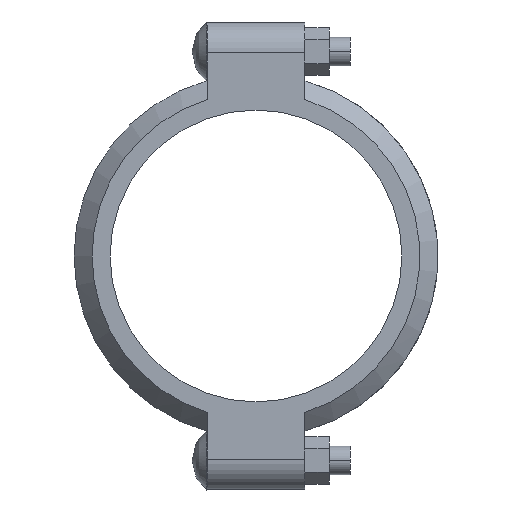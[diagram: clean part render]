
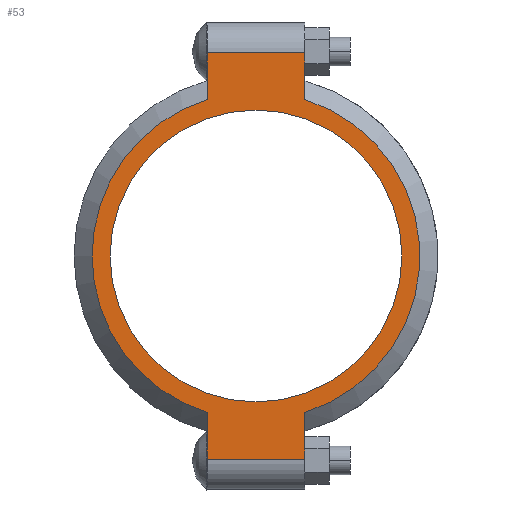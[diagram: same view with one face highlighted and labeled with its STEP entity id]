
A CAD part, front view. The second image highlights one B-rep face of the part: STEP entity #53.
In plain terms, the highlighted planar face has unit normal (0, -1, 0).
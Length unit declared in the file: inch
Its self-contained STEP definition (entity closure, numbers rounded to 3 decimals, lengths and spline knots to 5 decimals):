
#3 = ORIENTED_EDGE ( 'NONE', *, *, #463, .T. ) ;
#4 = ORIENTED_EDGE ( 'NONE', *, *, #458, .T. ) ;
#6 = ORIENTED_EDGE ( 'NONE', *, *, #1808, .T. ) ;
#18 = ORIENTED_EDGE ( 'NONE', *, *, #462, .T. ) ;
#53 = ADVANCED_FACE ( 'NONE', ( #667, #670 ), #1363, .F. ) ;
#89 = CARTESIAN_POINT ( 'NONE',  ( 1.105, -0.9725, -3.5534 ) ) ;
#107 = CARTESIAN_POINT ( 'NONE',  ( -1.105, -0.9725, 3.5534 ) ) ;
#154 = CARTESIAN_POINT ( 'NONE',  ( -1.105, -0.9725, 4.61106 ) ) ;
#155 = CARTESIAN_POINT ( 'NONE',  ( -1.105, -0.9725, 3.97943 ) ) ;
#156 = DIRECTION ( 'NONE',  ( 0., 0., -1. ) ) ;
#167 = DIRECTION ( 'NONE',  ( 0., 0., -1. ) ) ;
#180 = DIRECTION ( 'NONE',  ( -1., 0., 0. ) ) ;
#181 = CARTESIAN_POINT ( 'NONE',  ( -1.105, -0.9725, -5.30106 ) ) ;
#187 = DIRECTION ( 'NONE',  ( 1., 0., 0. ) ) ;
#188 = CARTESIAN_POINT ( 'NONE',  ( 1.105, -0.9725, -4.61106 ) ) ;
#190 = CARTESIAN_POINT ( 'NONE',  ( -1.105, -0.9725, 4.61106 ) ) ;
#191 = CARTESIAN_POINT ( 'NONE',  ( 0., -0.9725, 0. ) ) ;
#193 = DIRECTION ( 'NONE',  ( 0., -1., 0. ) ) ;
#194 = DIRECTION ( 'NONE',  ( 0., 0., -1. ) ) ;
#199 = CARTESIAN_POINT ( 'NONE',  ( 0., -0.9725, 0. ) ) ;
#200 = DIRECTION ( 'NONE',  ( 0., -1., 0. ) ) ;
#202 = DIRECTION ( 'NONE',  ( -1., 0., 0. ) ) ;
#203 = CARTESIAN_POINT ( 'NONE',  ( 0., -0.9725, -3.3125 ) ) ;
#206 = CARTESIAN_POINT ( 'NONE',  ( 0., -0.9725, 0. ) ) ;
#207 = DIRECTION ( 'NONE',  ( 0., -1., 0. ) ) ;
#208 = DIRECTION ( 'NONE',  ( -1., 0., 0. ) ) ;
#227 = CARTESIAN_POINT ( 'NONE',  ( -3.72125, -0.9725, 0. ) ) ;
#264 = CARTESIAN_POINT ( 'NONE',  ( -1.105, -0.9725, -3.5534 ) ) ;
#270 = CARTESIAN_POINT ( 'NONE',  ( 0., -0.9725, 3.3125 ) ) ;
#281 = CARTESIAN_POINT ( 'NONE',  ( 1.105, -0.9725, 4.61106 ) ) ;
#301 = CARTESIAN_POINT ( 'NONE',  ( -1.105, -0.9725, -4.61106 ) ) ;
#311 = CARTESIAN_POINT ( 'NONE',  ( 1.105, -0.9725, -4.61106 ) ) ;
#394 = DIRECTION ( 'NONE',  ( 0., 0., -1. ) ) ;
#395 = DIRECTION ( 'NONE',  ( 0., -1., 0. ) ) ;
#397 = CARTESIAN_POINT ( 'NONE',  ( 0., -0.9725, 0. ) ) ;
#425 = DIRECTION ( 'NONE',  ( -1., 0., 0. ) ) ;
#427 = DIRECTION ( 'NONE',  ( 0., -1., 0. ) ) ;
#430 = CARTESIAN_POINT ( 'NONE',  ( 0., -0.9725, 0. ) ) ;
#454 = EDGE_CURVE ( 'NONE', #1620, #520, #737, .T. ) ;
#458 = EDGE_CURVE ( 'NONE', #1778, #1784, #741, .T. ) ;
#459 = EDGE_CURVE ( 'NONE', #1756, #1779, #740, .T. ) ;
#460 = EDGE_CURVE ( 'NONE', #1791, #1620, #742, .T. ) ;
#461 = EDGE_CURVE ( 'NONE', #520, #1764, #745, .T. ) ;
#462 = EDGE_CURVE ( 'NONE', #1784, #1790, #747, .T. ) ;
#463 = EDGE_CURVE ( 'NONE', #511, #1799, #748, .T. ) ;
#511 = VERTEX_POINT ( 'NONE', #89 ) ;
#520 = VERTEX_POINT ( 'NONE', #107 ) ;
#532 = EDGE_LOOP ( 'NONE', ( #1222, #1221 ) ) ;
#537 = EDGE_LOOP ( 'NONE', ( #1220, #1219, #1218, #1217, #1216, #4, #18, #6, #3 ) ) ;
#667 = FACE_BOUND ( 'NONE', #532, .T. ) ;
#670 = FACE_OUTER_BOUND ( 'NONE', #537, .T. ) ;
#737 = LINE ( 'NONE', #155, #739 ) ;
#739 = VECTOR ( 'NONE', #156, 39.37008 ) ;
#740 = CIRCLE ( 'NONE', #991, 3.3125 ) ;
#741 = LINE ( 'NONE', #181, #743 ) ;
#742 = LINE ( 'NONE', #190, #746 ) ;
#743 = VECTOR ( 'NONE', #167, 39.37008 ) ;
#745 = CIRCLE ( 'NONE', #993, 3.72125 ) ;
#746 = VECTOR ( 'NONE', #180, 39.37008 ) ;
#747 = LINE ( 'NONE', #188, #749 ) ;
#748 = CIRCLE ( 'NONE', #994, 3.72125 ) ;
#749 = VECTOR ( 'NONE', #187, 39.37008 ) ;
#806 = VECTOR ( 'NONE', #1086, 39.37008 ) ;
#831 = LINE ( 'NONE', #1098, #806 ) ;
#857 = LINE ( 'NONE', #1148, #860 ) ;
#860 = VECTOR ( 'NONE', #1149, 39.37008 ) ;
#886 = CIRCLE ( 'NONE', #1019, 3.72125 ) ;
#905 = CIRCLE ( 'NONE', #1034, 3.3125 ) ;
#991 = AXIS2_PLACEMENT_3D ( 'NONE', #191, #193, #194 ) ;
#993 = AXIS2_PLACEMENT_3D ( 'NONE', #199, #200, #202 ) ;
#994 = AXIS2_PLACEMENT_3D ( 'NONE', #206, #207, #208 ) ;
#1019 = AXIS2_PLACEMENT_3D ( 'NONE', #430, #427, #425 ) ;
#1034 = AXIS2_PLACEMENT_3D ( 'NONE', #397, #395, #394 ) ;
#1078 = CARTESIAN_POINT ( 'NONE',  ( 1.105, -0.9725, 3.5534 ) ) ;
#1086 = DIRECTION ( 'NONE',  ( 0., 0., 1. ) ) ;
#1098 = CARTESIAN_POINT ( 'NONE',  ( 1.105, -0.9725, -3.97943 ) ) ;
#1148 = CARTESIAN_POINT ( 'NONE',  ( 1.105, -0.9725, 5.30106 ) ) ;
#1149 = DIRECTION ( 'NONE',  ( 0., 0., 1. ) ) ;
#1216 = ORIENTED_EDGE ( 'NONE', *, *, #1850, .T. ) ;
#1217 = ORIENTED_EDGE ( 'NONE', *, *, #461, .T. ) ;
#1218 = ORIENTED_EDGE ( 'NONE', *, *, #454, .T. ) ;
#1219 = ORIENTED_EDGE ( 'NONE', *, *, #460, .T. ) ;
#1220 = ORIENTED_EDGE ( 'NONE', *, *, #1825, .T. ) ;
#1221 = ORIENTED_EDGE ( 'NONE', *, *, #1865, .F. ) ;
#1222 = ORIENTED_EDGE ( 'NONE', *, *, #459, .F. ) ;
#1351 = CARTESIAN_POINT ( 'NONE',  ( 0., -0.9725, 0. ) ) ;
#1363 = PLANE ( 'NONE',  #1897 ) ;
#1367 = DIRECTION ( 'NONE',  ( 0., 1., 0. ) ) ;
#1369 = DIRECTION ( 'NONE',  ( -1., 0., 0. ) ) ;
#1620 = VERTEX_POINT ( 'NONE', #154 ) ;
#1756 = VERTEX_POINT ( 'NONE', #203 ) ;
#1764 = VERTEX_POINT ( 'NONE', #227 ) ;
#1778 = VERTEX_POINT ( 'NONE', #264 ) ;
#1779 = VERTEX_POINT ( 'NONE', #270 ) ;
#1784 = VERTEX_POINT ( 'NONE', #301 ) ;
#1790 = VERTEX_POINT ( 'NONE', #311 ) ;
#1791 = VERTEX_POINT ( 'NONE', #281 ) ;
#1799 = VERTEX_POINT ( 'NONE', #1078 ) ;
#1808 = EDGE_CURVE ( 'NONE', #1790, #511, #831, .T. ) ;
#1825 = EDGE_CURVE ( 'NONE', #1799, #1791, #857, .T. ) ;
#1850 = EDGE_CURVE ( 'NONE', #1764, #1778, #886, .T. ) ;
#1865 = EDGE_CURVE ( 'NONE', #1779, #1756, #905, .T. ) ;
#1897 = AXIS2_PLACEMENT_3D ( 'NONE', #1351, #1367, #1369 ) ;
